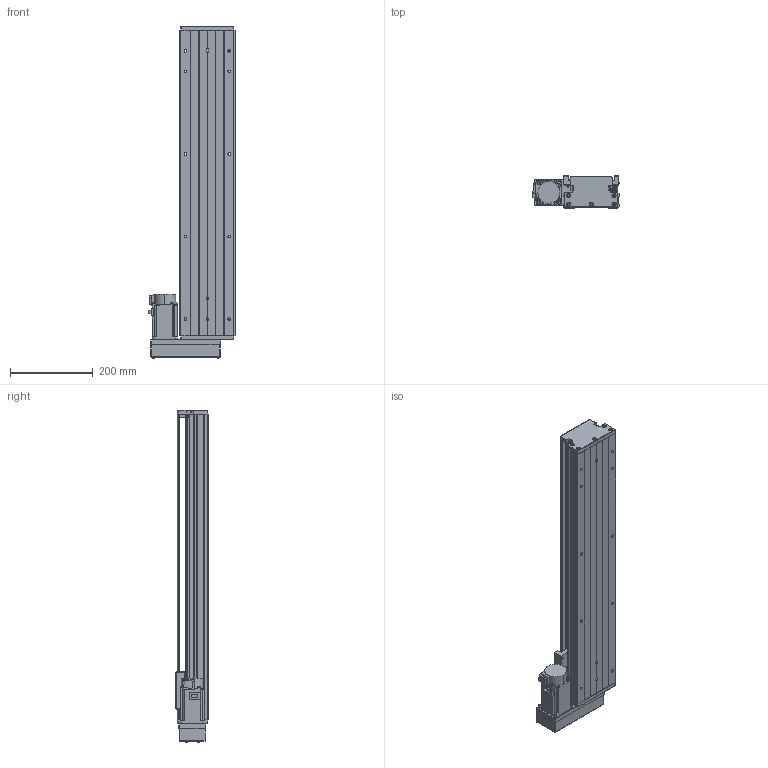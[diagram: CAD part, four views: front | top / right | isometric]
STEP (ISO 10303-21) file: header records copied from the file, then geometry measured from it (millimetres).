
FILE_DESCRIPTION (( 'STEP AP203' ), '1' );
FILE_NAME ('KTH130-600-BL-M40-C4.step', '2023-06-30T03:59:23', ( '微软用户' ), ( '微软中国' ), 'SwSTEP 2.0', 'SolidWorks 2020', '' );
FILE_SCHEMA (( 'CONFIG_CONTROL_DESIGN' ));
Length unit declared in the file: millimetre
Products named in the file (19): KTH130-600-BL-M40-C4; GBT70.1 M5℅16; す晦芛蹟隊 M3℅5; GBT 70.2-M3¡Á5_M3¡Á6; GBT 70.3-M3℅8; GTH14-001_600; CTHA60-017; HG-KN43J-S100; KTH130-002_KTH130-002; EE_SX911P_R; GBT 70.2-M4¡Á35_M4¡Á35; KTH130-004; CTHA60-016; GTH14-015-2_CTHA86-015-2; KTH130-005; GBT 70.1-M3℅5; GTH14-033; GB1155-6X6; GBT77-2000 M3×3
Assembly tree (53 placements, depth 2):
  KTH130-600-BL-M40-C4
    GTH14-001_600
    KTH130-002_KTH130-002
    KTH130-004
    KTH130-005
    GB1155-6X6  x2
    GBT70.1 M5℅16  x10
    GBT 70.2-M3¡Á5_M3¡Á6  x4
    CTHA60-017  x3
    EE_SX911P_R  x3
    CTHA60-016  x2
    GBT 70.1-M3℅5  x6
    GBT77-2000 M3×3  x6
    す晦芛蹟隊 M3℅5  x2
    GBT 70.3-M3℅8  x4
    HG-KN43J-S100
    GBT 70.2-M4¡Á35_M4¡Á35  x4
    GTH14-015-2_CTHA86-015-2
    GTH14-033
Bounding box: 209.3 x 78 x 804.2 mm (x, y, z)
Volume: 4641108.9 mm3; surface area: 766951.5 mm2
Topology: 56 solids, 56 shells, 2223 faces, 5366 edges, 3342 vertices
Faces by surface type: plane 1197, cylinder 612, cone 290, torus 100, sphere 24
Entity records: 40558 total; most frequent: CARTESIAN_POINT 8634, DIRECTION 6039, ORIENTED_EDGE 5932, EDGE_CURVE 2966, AXIS2_PLACEMENT_3D 2078, VERTEX_POINT 1895, VECTOR 1883, LINE 1883
